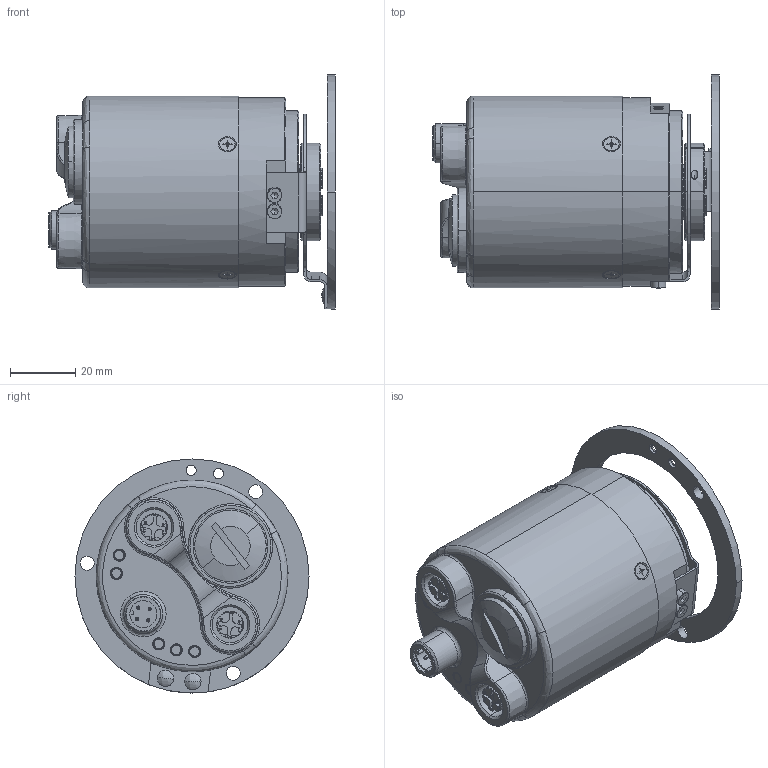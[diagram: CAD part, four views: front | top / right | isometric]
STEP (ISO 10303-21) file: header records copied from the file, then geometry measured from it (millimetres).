
FILE_DESCRIPTION (( 'STEP AP203' ), '1' );
FILE_NAME ('RM-106C14E1-xxxxx-B3M12-Ethernet.step', '2018-05-30T20:47:51', ( '' ), ( '' ), 'SwSTEP 2.0', 'SolidWorks 2015', '' );
FILE_SCHEMA (( 'CONFIG_CONTROL_DESIGN' ));
Length unit declared in the file: millimetre
Products named in the file (2): RM-106C14E1-xxxxx-B3M12-Ethernet
Bounding box: 88.2 x 72 x 72 mm (x, y, z)
Volume: 186494.8 mm3; surface area: 33653.8 mm2
Topology: 1 solids, 26 shells, 844 faces, 2152 edges, 1366 vertices
Faces by surface type: plane 291, cylinder 256, cone 169, bspline 114, torus 12, sphere 2
Entity records: 30903 total; most frequent: CARTESIAN_POINT 10767, ORIENTED_EDGE 4240, DIRECTION 4078, EDGE_CURVE 2120, AXIS2_PLACEMENT_3D 1526, VERTEX_POINT 1366, LINE 1026, VECTOR 1026
